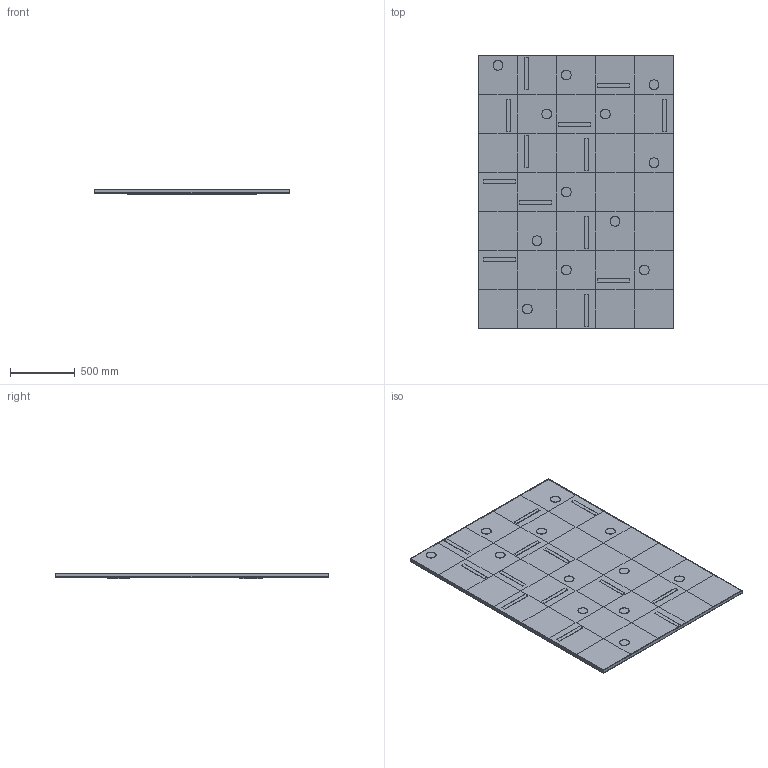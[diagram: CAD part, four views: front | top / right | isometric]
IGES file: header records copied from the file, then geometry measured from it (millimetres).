
Start section: SolidWorks IGES file using analytic representation for surfaces
Global section: file name: \\UTENTI\Dati Utenti\Tecnico\DC\2D - 3D per sito\3D\DeCastelli-3D-Yoko 02.igs; native system: SolidWorks 2022; preprocessor: SolidWorks 2022; author: Silviad; date: 240711.172738; units: millimetre
Bounding box: 1506 x 2106 x 42 mm (x, y, z)
Surface area: 7381795.4 mm2 (no closed solid volume)
Topology: 0 solids, 0 shells, 268 faces, 5624 edges, 5624 vertices
Faces by surface type: bspline 180, revolution 88
